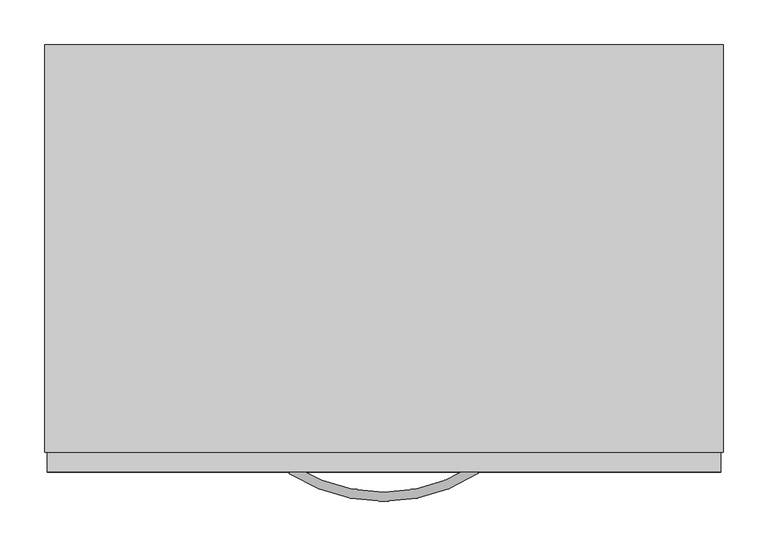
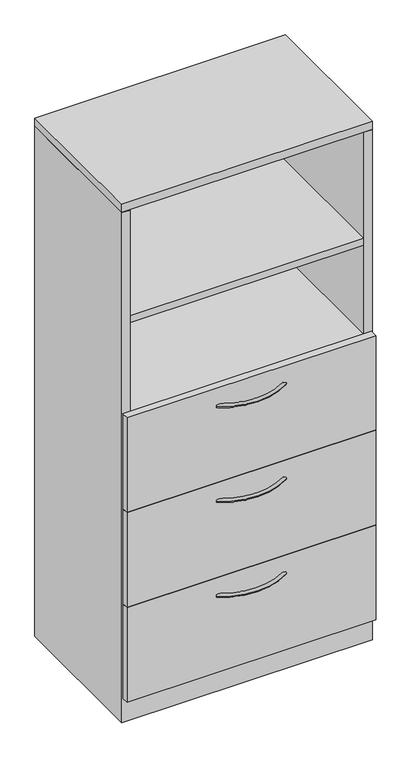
"""IFC4 building model written with IfcOpenShell, lengths in millimetres: furniture geometry, Steelcase - Universal Storage - Cabinet - Combination - Proud Steel : 65 1/2H - Open Cabinet/3 Drawers - 18 7/8D x 30W."""

from ifc_helpers import new_model, si_unit, point, frame, origin, place, context, project, spatial, polyline, circle_curve, ellipse_curve, trimmed, outline, extrude, faceted_brep, source, transform, mapped, element, save
from ifc_brep_helpers import plane_surface, revolved_surface, advanced_brep


def furniture_86182335(model_context):
    return source(origin(), model_context, "Body", "SolidModel", [
        extrude(outline(polyline([(736.6000242, -25.4000008), (736.6000242, -454.0250121), (25.4000008, -454.0250121), (25.4000008, -25.4000008), (736.6000242, -25.4000008)])), frame((0.0, 0.0, 965.2000242), z_axis=(0.0, 0.0, 1.0), x_axis=(1.0, 0.0, 0.0)), (0.0, 0.0, 1.0), 22.2249516),
        extrude(outline(polyline([(736.6000242, -25.4000008), (736.6000242, -454.0250121), (25.4000008, -454.0250121), (25.4000008, -25.4000008), (736.6000242, -25.4000008)])), frame((0.0, 0.0, 1273.1750484), z_axis=(0.0, 0.0, 1.0), x_axis=(1.0, 0.0, 0.0)), (0.0, 0.0, 1.0), 22.2249516),
        advanced_brep(
        [(274.4245932, -481.5705994, 323.56425), (279.8977519, -473.0108019, 323.56425), (486.7315136, -481.1337636, 323.56425), (481.2231767, -472.5965612, 323.56425)],
        [
            (0, 1, circle_curve(frame((277.1611726, -477.2907007, 323.56425), z_axis=(-0.8424997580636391, 0.5386967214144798, 0.0), x_axis=(0.5386967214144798, 0.8424997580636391, 0.0)), 5.08)),
            (1, 0, circle_curve(frame((277.1611726, -477.2907007, 323.56425), z_axis=(-0.8424997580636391, 0.5386967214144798, 0.0), x_axis=(0.5386967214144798, 0.8424997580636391, 0.0)), 5.08)),
            (2, 3, circle_curve(frame((483.9773452, -476.8651624, 323.56425), z_axis=(0.8402758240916, 0.5421591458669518, 0.0), x_axis=(-0.5421591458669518, 0.8402758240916, 0.0)), 5.08)),
            (3, 2, circle_curve(frame((483.9773452, -476.8651624, 323.56425), z_axis=(0.8402758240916, 0.5421591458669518, 0.0), x_axis=(-0.5421591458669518, 0.8402758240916, 0.0)), 5.08)),
            (3, 1, circle_curve(frame((380.2380004, -316.0827352, 323.56425), z_axis=(0.0, 0.0, -1.0), x_axis=(-0.5386967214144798, -0.8424997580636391, 0.0)), 186.2648211)),
            (0, 2, circle_curve(frame((380.2380004, -316.0827352, 323.56425), z_axis=(0.0, 0.0, 1.0), x_axis=(-0.5386967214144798, -0.8424997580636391, 0.0)), 196.4248211)),
        ],
        [
            plane_surface(frame((277.5794521, -476.6365286, 324.358), z_axis=(-0.8424997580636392, 0.5386967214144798, 0.0), x_axis=(0.0, 0.0, 1.0))),
            plane_surface(frame((483.5563772, -476.2127171, 324.358), z_axis=(0.8402758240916, 0.5421591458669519, 0.0), x_axis=(0.0, 0.0, 1.0))),
            revolved_surface(trimmed(ellipse_curve(frame((277.1611726, -477.2907007, 323.56425), z_axis=(-0.8424997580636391, 0.5386967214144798, 0.0), x_axis=(0.5386967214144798, 0.8424997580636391, 0.0)), 5.08, 5.08), [point((274.4245932, -481.5705994, 323.56425))], [point((279.8977519, -473.0108019, 323.56425))], True, "CARTESIAN"), (380.2380004, -316.0827352, 324.358), (0.0, 0.0, 1.0)),
            revolved_surface(trimmed(ellipse_curve(frame((277.1611726, -477.2907007, 323.56425), z_axis=(-0.8424997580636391, 0.5386967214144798, 0.0), x_axis=(0.5386967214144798, 0.8424997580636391, 0.0)), 5.08, 5.08), [point((279.8977519, -473.0108019, 323.56425))], [point((274.4245932, -481.5705994, 323.56425))], True, "CARTESIAN"), (380.2380004, -316.0827352, 324.358), (0.0, 0.0, 1.0)),
        ],
        [
            (0, [[1, 2]]),
            (1, [[3, 4]]),
            (2, [[5, -1, 6, -4]]),
            (3, [[-6, -2, -5, -3]]),
        ],
    ),
        advanced_brep(
        [(274.4245932, -481.5705994, 627.85625), (279.8977519, -473.0108019, 627.85625), (486.7315136, -481.1337636, 627.85625), (481.2231767, -472.5965612, 627.85625)],
        [
            (0, 1, circle_curve(frame((277.1611726, -477.2907007, 627.85625), z_axis=(-0.8424997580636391, 0.5386967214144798, 0.0), x_axis=(0.5386967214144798, 0.8424997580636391, 0.0)), 5.08)),
            (1, 0, circle_curve(frame((277.1611726, -477.2907007, 627.85625), z_axis=(-0.8424997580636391, 0.5386967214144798, 0.0), x_axis=(0.5386967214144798, 0.8424997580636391, 0.0)), 5.08)),
            (2, 3, circle_curve(frame((483.9773452, -476.8651624, 627.85625), z_axis=(0.8402758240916, 0.5421591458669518, 0.0), x_axis=(-0.5421591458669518, 0.8402758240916, 0.0)), 5.08)),
            (3, 2, circle_curve(frame((483.9773452, -476.8651624, 627.85625), z_axis=(0.8402758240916, 0.5421591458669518, 0.0), x_axis=(-0.5421591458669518, 0.8402758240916, 0.0)), 5.08)),
            (3, 1, circle_curve(frame((380.2380004, -316.0827352, 627.85625), z_axis=(0.0, 0.0, -1.0), x_axis=(-0.5386967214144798, -0.8424997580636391, 0.0)), 186.2648211)),
            (0, 2, circle_curve(frame((380.2380004, -316.0827352, 627.85625), z_axis=(0.0, 0.0, 1.0), x_axis=(-0.5386967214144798, -0.8424997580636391, 0.0)), 196.4248211)),
        ],
        [
            plane_surface(frame((277.5794521, -476.6365286, 628.65), z_axis=(-0.8424997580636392, 0.5386967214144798, 0.0), x_axis=(0.0, 0.0, 1.0))),
            plane_surface(frame((483.5563772, -476.2127171, 628.65), z_axis=(0.8402758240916, 0.5421591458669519, 0.0), x_axis=(0.0, 0.0, 1.0))),
            revolved_surface(trimmed(ellipse_curve(frame((277.1611726, -477.2907007, 627.85625), z_axis=(-0.8424997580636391, 0.5386967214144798, 0.0), x_axis=(0.5386967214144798, 0.8424997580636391, 0.0)), 5.08, 5.08), [point((274.4245932, -481.5705994, 627.85625))], [point((279.8977519, -473.0108019, 627.85625))], True, "CARTESIAN"), (380.2380004, -316.0827352, 628.65), (0.0, 0.0, 1.0)),
            revolved_surface(trimmed(ellipse_curve(frame((277.1611726, -477.2907007, 627.85625), z_axis=(-0.8424997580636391, 0.5386967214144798, 0.0), x_axis=(0.5386967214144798, 0.8424997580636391, 0.0)), 5.08, 5.08), [point((279.8977519, -473.0108019, 627.85625))], [point((274.4245932, -481.5705994, 627.85625))], True, "CARTESIAN"), (380.2380004, -316.0827352, 628.65), (0.0, 0.0, 1.0)),
        ],
        [
            (0, [[1, 2]]),
            (1, [[3, 4]]),
            (2, [[5, -1, 6, -4]]),
            (3, [[-6, -2, -5, -3]]),
        ],
    ),
        extrude(outline(polyline([(758.8225413, -479.552), (3.1725353, -479.552), (3.1725353, -457.3261219), (758.8225413, -457.3261219), (758.8225413, -479.552)])), frame((0.0, 0.0, 687.3240349), z_axis=(0.0, 0.0, 1.0), x_axis=(1.0, 0.0, 0.0)), (0.0, 0.0, 1.0), 303.2759651),
        advanced_brep(
        [(274.4245932, -481.5705994, 932.65625), (279.8977519, -473.0108019, 932.65625), (486.7315136, -481.1337636, 932.65625), (481.2231767, -472.5965612, 932.65625)],
        [
            (0, 1, circle_curve(frame((277.1611726, -477.2907007, 932.65625), z_axis=(-0.8424997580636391, 0.5386967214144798, 0.0), x_axis=(0.5386967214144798, 0.8424997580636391, 0.0)), 5.08)),
            (1, 0, circle_curve(frame((277.1611726, -477.2907007, 932.65625), z_axis=(-0.8424997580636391, 0.5386967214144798, 0.0), x_axis=(0.5386967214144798, 0.8424997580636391, 0.0)), 5.08)),
            (2, 3, circle_curve(frame((483.9773452, -476.8651624, 932.65625), z_axis=(0.8402758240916, 0.5421591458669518, 0.0), x_axis=(-0.5421591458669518, 0.8402758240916, 0.0)), 5.08)),
            (3, 2, circle_curve(frame((483.9773452, -476.8651624, 932.65625), z_axis=(0.8402758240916, 0.5421591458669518, 0.0), x_axis=(-0.5421591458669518, 0.8402758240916, 0.0)), 5.08)),
            (3, 1, circle_curve(frame((380.2380004, -316.0827352, 932.65625), z_axis=(0.0, 0.0, -1.0), x_axis=(-0.5386967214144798, -0.8424997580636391, 0.0)), 186.2648211)),
            (0, 2, circle_curve(frame((380.2380004, -316.0827352, 932.65625), z_axis=(0.0, 0.0, 1.0), x_axis=(-0.5386967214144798, -0.8424997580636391, 0.0)), 196.4248211)),
        ],
        [
            plane_surface(frame((277.5794521, -476.6365286, 933.45), z_axis=(-0.8424997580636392, 0.5386967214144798, 0.0), x_axis=(0.0, 0.0, 1.0))),
            plane_surface(frame((483.5563772, -476.2127171, 933.45), z_axis=(0.8402758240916, 0.5421591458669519, 0.0), x_axis=(0.0, 0.0, 1.0))),
            revolved_surface(trimmed(ellipse_curve(frame((277.1611726, -477.2907007, 932.65625), z_axis=(-0.8424997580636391, 0.5386967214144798, 0.0), x_axis=(0.5386967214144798, 0.8424997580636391, 0.0)), 5.08, 5.08), [point((274.4245932, -481.5705994, 932.65625))], [point((279.8977519, -473.0108019, 932.65625))], True, "CARTESIAN"), (380.2380004, -316.0827352, 933.45), (0.0, 0.0, 1.0)),
            revolved_surface(trimmed(ellipse_curve(frame((277.1611726, -477.2907007, 932.65625), z_axis=(-0.8424997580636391, 0.5386967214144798, 0.0), x_axis=(0.5386967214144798, 0.8424997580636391, 0.0)), 5.08, 5.08), [point((279.8977519, -473.0108019, 932.65625))], [point((274.4245932, -481.5705994, 932.65625))], True, "CARTESIAN"), (380.2380004, -316.0827352, 933.45), (0.0, 0.0, 1.0)),
        ],
        [
            (0, [[1, 2]]),
            (1, [[3, 4]]),
            (2, [[5, -1, 6, -4]]),
            (3, [[-6, -2, -5, -3]]),
        ],
    ),
        faceted_brep([(25.4000008, -457.3261219, 76.2), (736.6000242, -457.3261219, 76.2), (736.6000242, -25.4000008, 76.2), (25.4000008, -25.4000008, 76.2), (762.0, 0.0, 0.0), (762.0, -457.3261219, 0.0), (0.0, -457.3261219, 0.0), (0.0, 0.0, 0.0), (0.0, 0.0, 1636.776), (762.0, 0.0, 1636.776), (0.0, -457.3261219, 1636.776), (762.0, -457.3261219, 1636.776), (736.6000242, -457.3261219, 1636.776), (25.4000008, -457.3261219, 1636.776), (736.6000242, -25.4000008, 1636.776), (25.4000008, -25.4000008, 1636.776)], [[[0, 1, 2, 3]], [[4, 5, 6, 7]], [[4, 7, 8, 9]], [[8, 7, 6, 10]], [[10, 6, 5, 11, 12, 1, 0, 13]], [[11, 5, 4, 9]], [[14, 12, 11, 9, 8, 10, 13, 15]], [[12, 14, 2, 1]], [[15, 13, 0, 3]], [[14, 15, 3, 2]]]),
        extrude(outline(polyline([(758.8225413, -479.552), (3.1725353, -479.552), (3.1725353, -457.3261219), (758.8225413, -457.3261219), (758.8225413, -479.552)])), frame((0.0, 0.0, 77.724), z_axis=(0.0, 0.0, 1.0), x_axis=(1.0, 0.0, 0.0)), (0.0, 0.0, 1.0), 303.276),
        extrude(outline(polyline([(758.8225413, -479.552), (3.1725353, -479.552), (3.1725353, -457.3261219), (758.8225413, -457.3261219), (758.8225413, -479.552)])), frame((0.0, 0.0, 382.524), z_axis=(0.0, 0.0, 1.0), x_axis=(1.0, 0.0, 0.0)), (0.0, 0.0, 1.0), 303.276),
        extrude(outline(polyline([(762.0, 0.0), (762.0, -457.3261219), (0.0, -457.3261219), (0.0, 0.0), (762.0, 0.0)])), frame((0.0, 0.0, 1638.2999516), z_axis=(0.0, 0.0, 1.0), x_axis=(1.0, 0.0, 0.0)), (0.0, 0.0, 1.0), 25.4000484),
    ])


if __name__ == "__main__":
    model = new_model("IFC4")
    model_context = context("Model", 3, world=origin())
    ifc_project = project(units=[si_unit("LENGTHUNIT", "METRE", prefix="MILLI")], contexts=[model_context])
    site = spatial("IfcSite", under=ifc_project)
    building = spatial("IfcBuilding", under=site)
    placement = place(None, origin())
    furniture_shape = furniture_86182335(model_context)
    element("IfcFurniture", 1, ObjectType="Steelcase - Universal Storage - Cabinet - Combination - Proud Steel : 65 1/2H - Open Cabinet/3 Drawers - 18 7/8D x 30W", at=placement, inside=building, context=model_context, shape_type="MappedRepresentation", body=[
        mapped(furniture_shape, transform((0.0, 0.0, 0.0), x_axis=(1.0, 0.0, 0.0), y_axis=(0.0, 1.0, 0.0), z_axis=(0.0, 0.0, 1.0))),
    ])
    save(model, "model.ifc")
